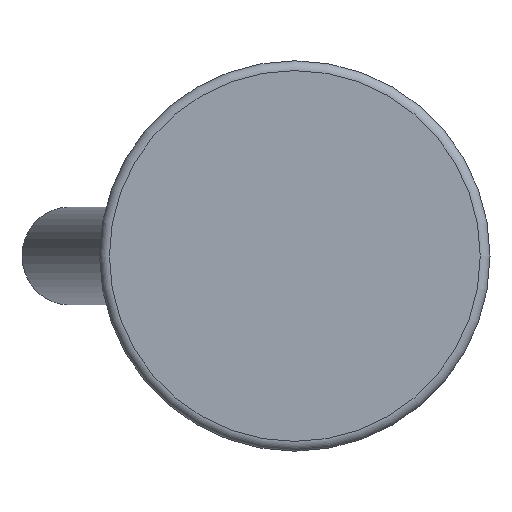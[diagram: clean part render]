
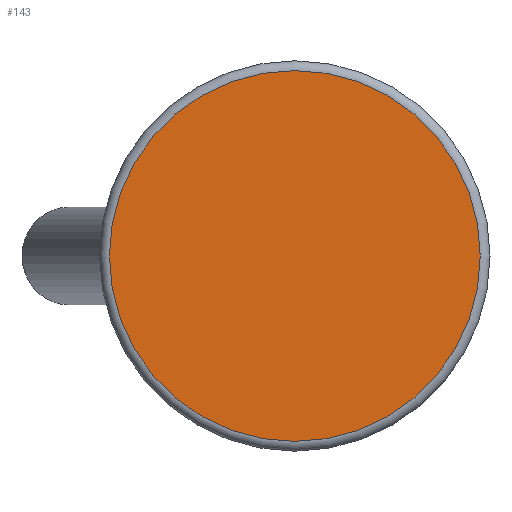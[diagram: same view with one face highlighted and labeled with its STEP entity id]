
A CAD part, front view. The second image highlights one B-rep face of the part: STEP entity #143.
In plain terms, the highlighted planar face has unit normal (0, -1, 0).
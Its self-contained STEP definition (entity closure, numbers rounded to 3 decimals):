
#143 = ADVANCED_FACE( '', ( #290 ), #291, .F. );
#290 = FACE_OUTER_BOUND( '', #472, .T. );
#291 = PLANE( '', #473 );
#472 = EDGE_LOOP( '', ( #654 ) );
#473 = AXIS2_PLACEMENT_3D( '', #655, #656, #657 );
#654 = ORIENTED_EDGE( '', *, *, #1008, .T. );
#655 = CARTESIAN_POINT( '', ( 19., 0., 0. ) );
#656 = DIRECTION( '', ( 0., 1., 0. ) );
#657 = DIRECTION( '', ( 0., 0., 1. ) );
#1008 = EDGE_CURVE( '', #1149, #1149, #1150, .T. );
#1149 = VERTEX_POINT( '', #1345 );
#1150 = CIRCLE( '', #1346, 19. );
#1345 = CARTESIAN_POINT( '', ( 0., 0., -19. ) );
#1346 = AXIS2_PLACEMENT_3D( '', #1819, #1820, #1821 );
#1819 = CARTESIAN_POINT( '', ( 0., 0., 0. ) );
#1820 = DIRECTION( '', ( 0., -1., 0. ) );
#1821 = DIRECTION( '', ( 0., 0., -1. ) );
